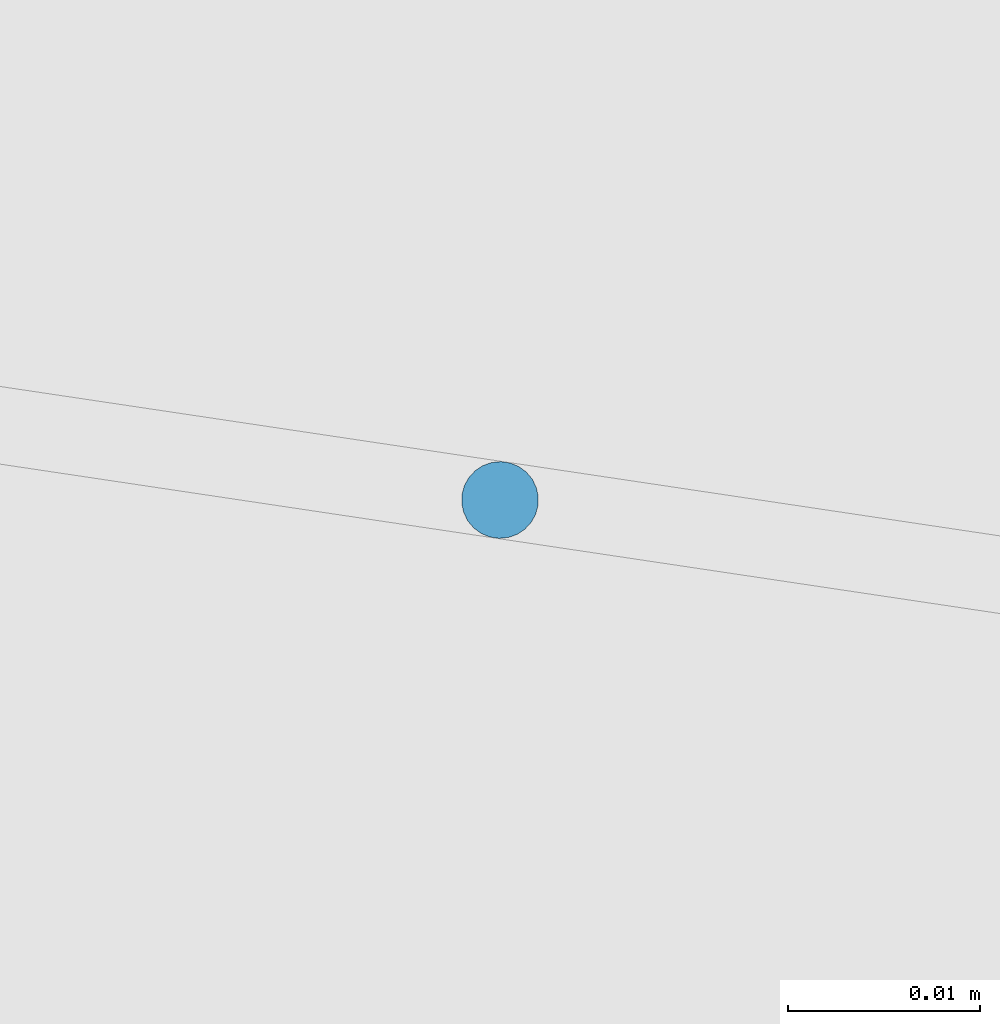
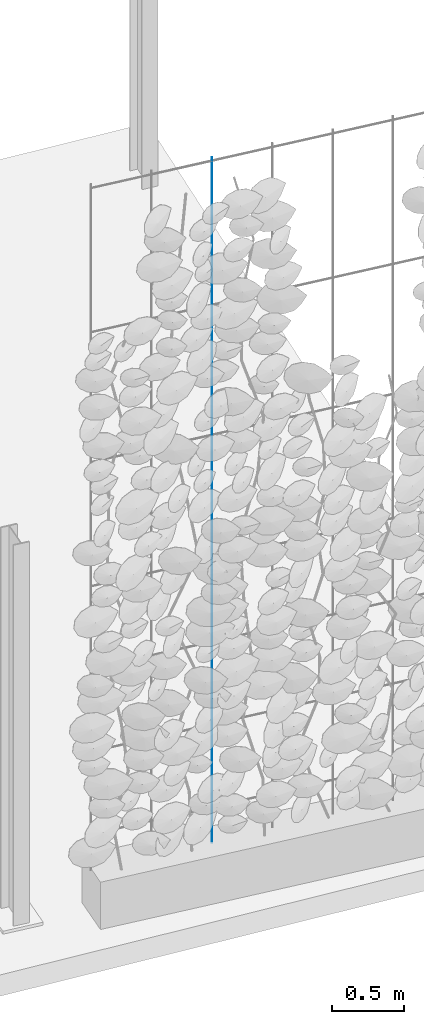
# One storey, part 99 of 142: 1 member, 1 element without a shape of its own.
"""IFC4 building model written with IfcOpenShell, lengths in metres."""

from ifc_helpers import new_model, si_unit, direction, frame, origin_with_axes, place, context, subcontext, project, spatial, circle, extrude, material, material_profile, profile_set, profile_usage, type_object, element, aggregate, save


model = new_model("IFC4")

# Units and contexts
model_context = context("Model", 3, precision=1e-05, world=origin_with_axes(), true_north=direction((0.0, 1.0)))
body_context = subcontext(model_context, "Body", "Model", "MODEL_VIEW")
ifc_project = project(units=[si_unit("AREAUNIT", "SQUARE_METRE"), si_unit("VOLUMEUNIT", "CUBIC_METRE"), si_unit("LENGTHUNIT", "METRE")], contexts=[model_context])

# Site, building, storey
site_placement = place(None, origin_with_axes())
site = spatial("IfcSite", under=ifc_project, at=site_placement, Name="Lares · Rua das Mercês · artigo 4771")
building_placement = place(site_placement, frame((15.0, 9.7, 14.65), z_axis=(0.0, 0.0, 1.0), x_axis=(0.989015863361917, -0.147809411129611, 0.0)))
building = spatial("IfcBuilding", under=site, at=building_placement, Name="Casa Sobreposta")
storey_placement = place(building_placement, origin_with_axes())
storey = spatial("IfcBuildingStorey", under=building, at=storey_placement, Name="00 · Habitação e estacionamento", Elevation=14.65)

# Assembly, member
assembly_placement = place(storey_placement, origin_with_axes())
assembly = element("IfcElementAssembly", 1, at=assembly_placement, inside=storey, Name="Fachada sul e pátio · estrutura e trepadeiras", ObjectType="LIVING_SHADE_TRELLIS", PredefinedType="USERDEFINED")
ifc_material = material(Name="Aço galvanizado / Stahl verzinkt", Category="steel")
ifc_material_profile = material_profile(ifc_material, circle(Radius=0.002))
ifc_profile_set = profile_set([ifc_material_profile], Name="D0.004")
ifc_profile_usage = profile_usage(ifc_profile_set)
member_type = type_object("IfcMemberType", Name="D0.004 / galvanized", PredefinedType="NOTDEFINED", material=ifc_profile_set)
member_placement = place(assembly_placement, frame((29.4, -1.61, 0.35), z_axis=(0.0, 0.0, 1.0), x_axis=(1.0, 0.0, 0.0)))
member = element("IfcMember", 2, at=member_placement, type_object=member_type, material=ifc_profile_usage, Name="Trepadeiras · fio vertical", context=body_context, shape_type="SweptSolid", body=[
    extrude(circle(Radius=0.002), origin_with_axes(), (0.0, 0.0, 1.0), 5.8),
])
aggregate(assembly, [member])

save(model, "model.ifc")
